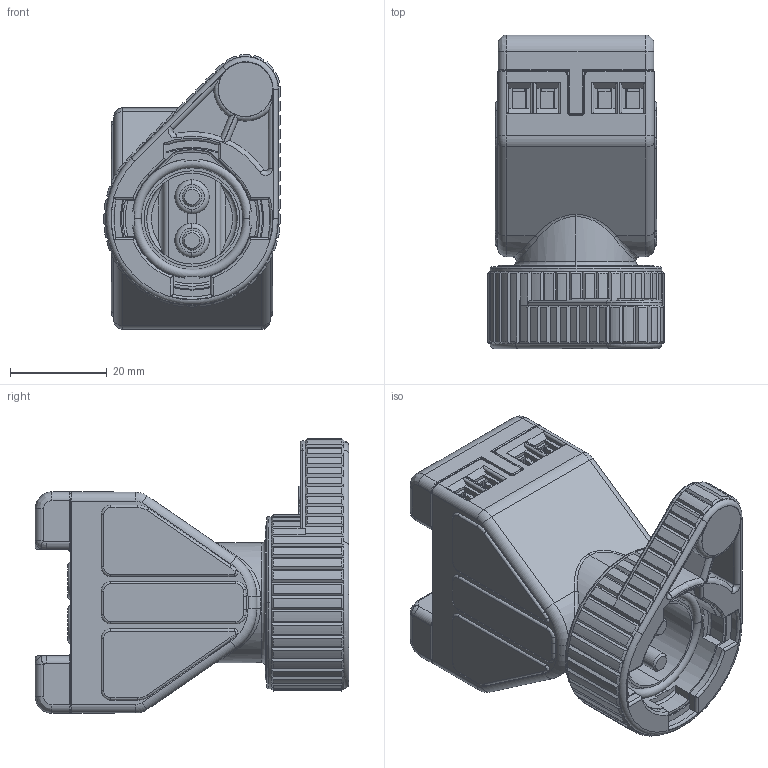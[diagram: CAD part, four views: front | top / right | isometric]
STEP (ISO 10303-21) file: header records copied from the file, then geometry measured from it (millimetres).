
FILE_DESCRIPTION((''),'2;1');
FILE_NAME('00_SCHALTER_KL_FRONT__SW0001','2009-01-19T',('beil'),(''),'PRO/ENGINEER BY PARAMETRIC TECHNOLOGY CORPORATION, 2007160','PRO/ENGINEER BY PARAMETRIC TECHNOLOGY CORPORATION, 2007160','');
FILE_SCHEMA(('CONFIG_CONTROL_DESIGN'));
Products named in the file (1): 00_SCHALTER_KL_FRONT__SW0001
Bounding box: 36.6 x 65 x 56.95 mm (x, y, z)
Volume: 55565.9 mm3; surface area: 30755.4 mm2
Topology: 1 solids, 1 shells, 2531 faces, 6638 edges, 4164 vertices
Faces by surface type: plane 1674, cylinder 550, torus 155, cone 116, bspline 28, sphere 8
Entity records: 79822 total; most frequent: CARTESIAN_POINT 17336, ORIENTED_EDGE 13268, DIRECTION 12637, EDGE_CURVE 6634, VECTOR 4653, LINE 4653, VERTEX_POINT 4164, AXIS2_PLACEMENT_3D 3992
